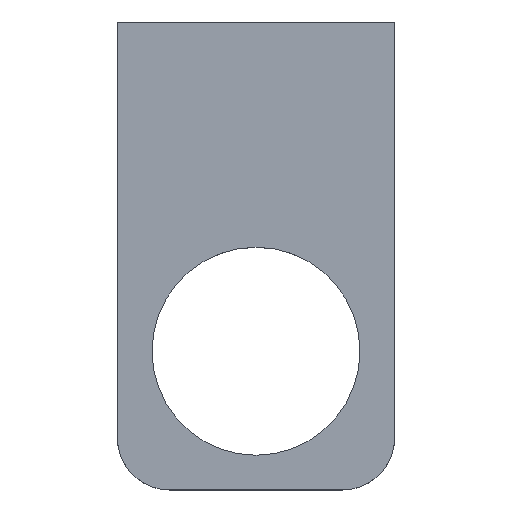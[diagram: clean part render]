
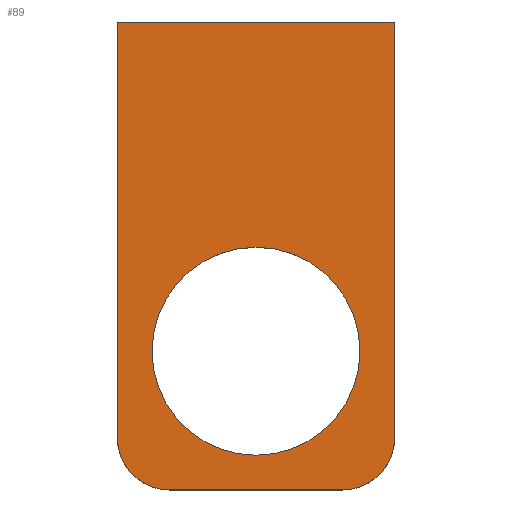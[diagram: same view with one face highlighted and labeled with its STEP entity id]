
A CAD part, top view. The second image highlights one B-rep face of the part: STEP entity #89.
In plain terms, the highlighted planar face has unit normal (0, 0, 1).
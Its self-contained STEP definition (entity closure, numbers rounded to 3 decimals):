
#89=ADVANCED_FACE('',(#376,#378),#380,.T.);
#376=FACE_BOUND('',#377,.T.);
#377=EDGE_LOOP('',(#622,#623,#624,#625,#626,#627));
#378=FACE_BOUND('',#379,.T.);
#379=EDGE_LOOP('',(#628));
#380=PLANE('',#381);
#381=AXIS2_PLACEMENT_3D('',#382,#383,#384);
#382=CARTESIAN_POINT('',(0.,0.,10.));
#383=DIRECTION('',(0.,0.,1.));
#384=DIRECTION('',(-1.,0.,0.));
#622=ORIENTED_EDGE('',*,*,#703,.T.);
#623=ORIENTED_EDGE('',*,*,#704,.T.);
#624=ORIENTED_EDGE('',*,*,#705,.T.);
#625=ORIENTED_EDGE('',*,*,#706,.T.);
#626=ORIENTED_EDGE('',*,*,#685,.T.);
#627=ORIENTED_EDGE('',*,*,#702,.T.);
#628=ORIENTED_EDGE('',*,*,#707,.T.);
#685=EDGE_CURVE('',#730,#728,#731,.T.);
#702=EDGE_CURVE('',#728,#760,#762,.T.);
#703=EDGE_CURVE('',#760,#763,#764,.T.);
#704=EDGE_CURVE('',#763,#765,#766,.T.);
#705=EDGE_CURVE('',#765,#767,#768,.T.);
#706=EDGE_CURVE('',#767,#730,#769,.T.);
#707=EDGE_CURVE('',#770,#770,#771,.F.);
#728=VERTEX_POINT('',#808);
#730=VERTEX_POINT('',#812);
#731=LINE('',#813,#814);
#760=VERTEX_POINT('',#885);
#762=LINE('',#889,#890);
#763=VERTEX_POINT('',#892);
#764=CIRCLE('',#893,6.);
#765=VERTEX_POINT('',#897);
#766=LINE('',#898,#899);
#767=VERTEX_POINT('',#901);
#768=CIRCLE('',#902,6.);
#769=LINE('',#906,#907);
#770=VERTEX_POINT('',#909);
#771=CIRCLE('',#910,12.);
#808=CARTESIAN_POINT('',(-16.,38.,10.));
#812=CARTESIAN_POINT('',(16.,38.,10.));
#813=CARTESIAN_POINT('',(16.,38.,10.));
#814=VECTOR('',#815,1.);
#815=DIRECTION('',(-1.,0.,0.));
#885=CARTESIAN_POINT('',(-16.,-10.,10.));
#889=CARTESIAN_POINT('',(-16.,38.,10.));
#890=VECTOR('',#891,1.);
#891=DIRECTION('',(0.,-1.,0.));
#892=CARTESIAN_POINT('',(-10.,-16.,10.));
#893=AXIS2_PLACEMENT_3D('',#894,#895,#896);
#894=CARTESIAN_POINT('',(-10.,-10.,10.));
#895=DIRECTION('',(0.,0.,1.));
#896=DIRECTION('',(-1.,0.,0.));
#897=CARTESIAN_POINT('',(10.,-16.,10.));
#898=CARTESIAN_POINT('',(-10.,-16.,10.));
#899=VECTOR('',#900,1.);
#900=DIRECTION('',(1.,0.,0.));
#901=CARTESIAN_POINT('',(16.,-10.,10.));
#902=AXIS2_PLACEMENT_3D('',#903,#904,#905);
#903=CARTESIAN_POINT('',(10.,-10.,10.));
#904=DIRECTION('',(0.,0.,1.));
#905=DIRECTION('',(0.,-1.,0.));
#906=CARTESIAN_POINT('',(16.,-10.,10.));
#907=VECTOR('',#908,1.);
#908=DIRECTION('',(0.,1.,0.));
#909=CARTESIAN_POINT('',(0.,12.,10.));
#910=AXIS2_PLACEMENT_3D('',#911,#912,#913);
#911=CARTESIAN_POINT('',(0.,0.,10.));
#912=DIRECTION('',(0.,0.,1.));
#913=DIRECTION('',(0.,1.,0.));
